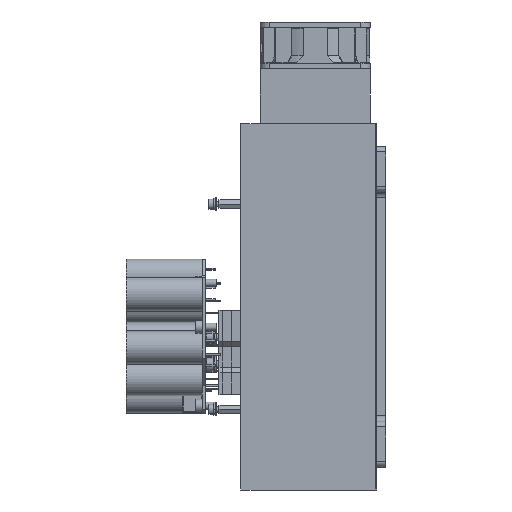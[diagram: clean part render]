
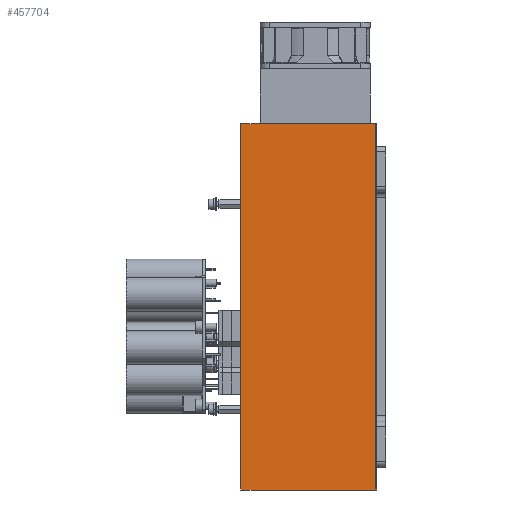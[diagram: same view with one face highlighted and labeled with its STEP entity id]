
A CAD part, left-side view. The second image highlights one B-rep face of the part: STEP entity #457704.
In plain terms, the highlighted planar face has unit normal (-1, 0, 0).
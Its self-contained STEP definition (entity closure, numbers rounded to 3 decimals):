
#5355 = DIRECTION ( 'NONE',  ( 0., 0., 1. ) ) ;
#38528 = DIRECTION ( 'NONE',  ( 0., 1., 0. ) ) ;
#61787 = CARTESIAN_POINT ( 'NONE',  ( 32.578, 32.848, 183.303 ) ) ;
#67069 = EDGE_LOOP ( 'NONE', ( #902222, #69037, #878101, #626187 ) ) ;
#69037 = ORIENTED_EDGE ( 'NONE', *, *, #248193, .F. ) ;
#69403 = LINE ( 'NONE', #1090576, #689753 ) ;
#122719 = VECTOR ( 'NONE', #5355, 1000. ) ;
#157551 = CARTESIAN_POINT ( 'NONE',  ( 32.578, 106.348, 83.303 ) ) ;
#158064 = VERTEX_POINT ( 'NONE', #767195 ) ;
#206947 = LINE ( 'NONE', #291193, #1023378 ) ;
#235751 = LINE ( 'NONE', #841537, #539002 ) ;
#243313 = VERTEX_POINT ( 'NONE', #250188 ) ;
#243780 = PLANE ( 'NONE',  #479190 ) ;
#248193 = EDGE_CURVE ( 'NONE', #418687, #158064, #235751, .T. ) ;
#250188 = CARTESIAN_POINT ( 'NONE',  ( 32.578, 32.848, 83.303 ) ) ;
#254750 = CARTESIAN_POINT ( 'NONE',  ( 32.578, 32.848, 183.303 ) ) ;
#291193 = CARTESIAN_POINT ( 'NONE',  ( 32.578, 32.848, 83.303 ) ) ;
#394055 = EDGE_CURVE ( 'NONE', #243313, #418687, #206947, .T. ) ;
#409617 = DIRECTION ( 'NONE',  ( 0., 0., 1. ) ) ;
#418687 = VERTEX_POINT ( 'NONE', #157551 ) ;
#434363 = FACE_OUTER_BOUND ( 'NONE', #67069, .T. ) ;
#457704 = ADVANCED_FACE ( 'NONE', ( #434363 ), #243780, .T. ) ;
#479190 = AXIS2_PLACEMENT_3D ( 'NONE', #254750, #1028861, #759884 ) ;
#539002 = VECTOR ( 'NONE', #409617, 1000. ) ;
#626187 = ORIENTED_EDGE ( 'NONE', *, *, #922684, .T. ) ;
#664725 = CARTESIAN_POINT ( 'NONE',  ( 32.578, 32.848, 283.303 ) ) ;
#689753 = VECTOR ( 'NONE', #911275, 1000. ) ;
#759884 = DIRECTION ( 'NONE',  ( 0., 0., 1. ) ) ;
#767195 = CARTESIAN_POINT ( 'NONE',  ( 32.578, 106.348, 283.303 ) ) ;
#830479 = LINE ( 'NONE', #61787, #122719 ) ;
#841537 = CARTESIAN_POINT ( 'NONE',  ( 32.578, 106.348, 183.303 ) ) ;
#878101 = ORIENTED_EDGE ( 'NONE', *, *, #394055, .F. ) ;
#902222 = ORIENTED_EDGE ( 'NONE', *, *, #933319, .T. ) ;
#911275 = DIRECTION ( 'NONE',  ( 0., 1., 0. ) ) ;
#922684 = EDGE_CURVE ( 'NONE', #243313, #961503, #830479, .T. ) ;
#933319 = EDGE_CURVE ( 'NONE', #961503, #158064, #69403, .T. ) ;
#961503 = VERTEX_POINT ( 'NONE', #664725 ) ;
#1023378 = VECTOR ( 'NONE', #38528, 1000. ) ;
#1028861 = DIRECTION ( 'NONE',  ( -1., 0., 0. ) ) ;
#1090576 = CARTESIAN_POINT ( 'NONE',  ( 32.578, 32.848, 283.303 ) ) ;
